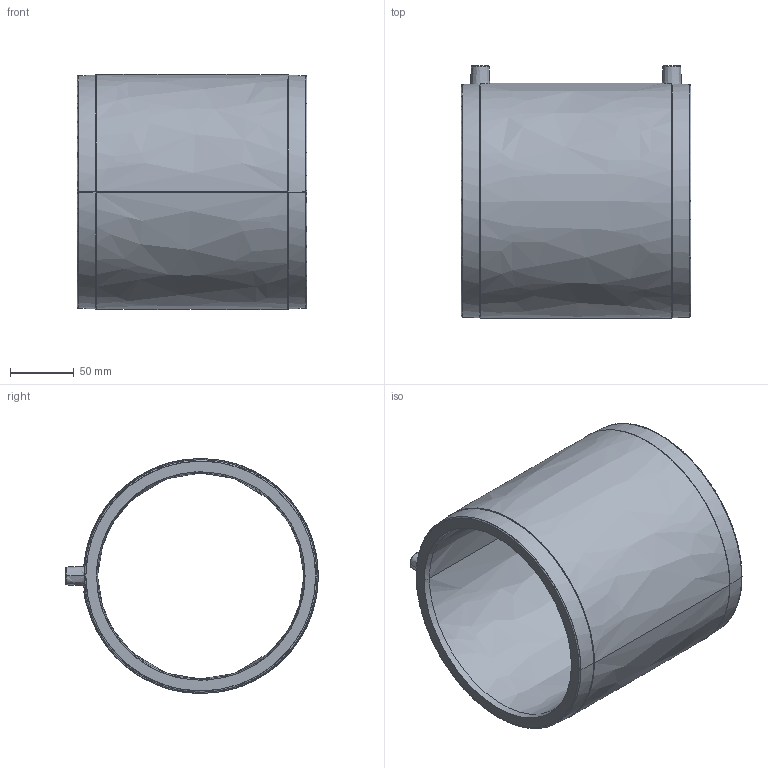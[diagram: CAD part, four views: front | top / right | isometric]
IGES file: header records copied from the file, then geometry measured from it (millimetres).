
Start section:  PTC IGES file: am_d160.igs
Global section: file name: am_d160.igs; native system: Pro/ENGINEER by Parametric Technology Corporation; preprocessor: 2011490; author: mtunjic; organization: Unknown; date: 20130729.163618; units: millimetre
Bounding box: 180 x 197.75 x 184 mm (x, y, z)
Surface area: 206848.3 mm2 (no closed solid volume)
Topology: 0 solids, 0 shells, 145 faces, 736 edges, 736 vertices
Faces by surface type: bspline 145
